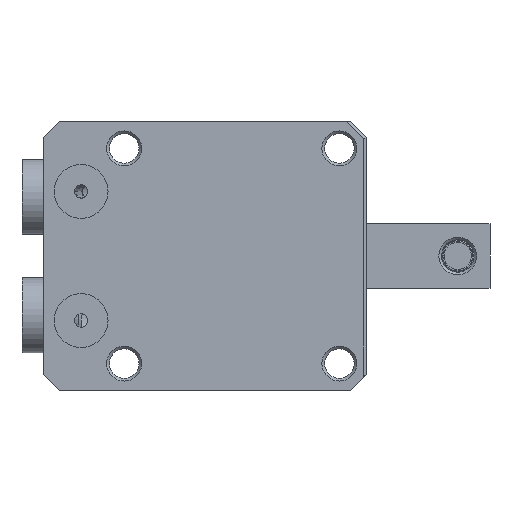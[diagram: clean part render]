
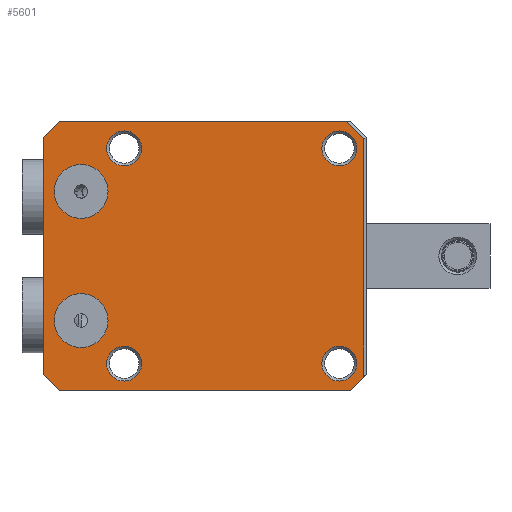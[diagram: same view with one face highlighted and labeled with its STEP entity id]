
A CAD part, front view. The second image highlights one B-rep face of the part: STEP entity #5601.
In plain terms, the highlighted planar face has unit normal (0, -1, 0).
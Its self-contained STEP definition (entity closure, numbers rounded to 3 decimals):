
#158=PLANE('',#6184);
#270=FACE_BOUND('',#805,.T.);
#271=FACE_BOUND('',#806,.T.);
#272=FACE_BOUND('',#807,.T.);
#273=FACE_BOUND('',#808,.T.);
#274=FACE_BOUND('',#809,.T.);
#275=FACE_BOUND('',#810,.T.);
#466=FACE_OUTER_BOUND('',#804,.T.);
#804=EDGE_LOOP('',(#3968,#3969,#3970,#3971,#3972,#3973,#3974,#3975));
#805=EDGE_LOOP('',(#3976));
#806=EDGE_LOOP('',(#3977));
#807=EDGE_LOOP('',(#3978));
#808=EDGE_LOOP('',(#3979));
#809=EDGE_LOOP('',(#3980));
#810=EDGE_LOOP('',(#3981));
#1212=LINE('',#9119,#1626);
#1232=LINE('',#9159,#1646);
#1233=LINE('',#9163,#1647);
#1234=LINE('',#9165,#1648);
#1235=LINE('',#9167,#1649);
#1236=LINE('',#9169,#1650);
#1237=LINE('',#9170,#1651);
#1238=LINE('',#9171,#1652);
#1626=VECTOR('',#7035,1000.);
#1646=VECTOR('',#7071,1000.);
#1647=VECTOR('',#7074,1000.);
#1648=VECTOR('',#7075,1000.);
#1649=VECTOR('',#7076,1000.);
#1650=VECTOR('',#7077,1000.);
#1651=VECTOR('',#7078,1000.);
#1652=VECTOR('',#7079,1000.);
#2011=CIRCLE('',#6110,5.);
#2013=CIRCLE('',#6113,5.);
#2016=CIRCLE('',#6117,3.25);
#2019=CIRCLE('',#6121,3.25);
#2022=CIRCLE('',#6125,3.25);
#2025=CIRCLE('',#6129,3.25);
#2402=VERTEX_POINT('',#8817);
#2404=VERTEX_POINT('',#8823);
#2407=VERTEX_POINT('',#8831);
#2410=VERTEX_POINT('',#8839);
#2413=VERTEX_POINT('',#8847);
#2416=VERTEX_POINT('',#8855);
#2459=VERTEX_POINT('',#9116);
#2460=VERTEX_POINT('',#9118);
#2472=VERTEX_POINT('',#9157);
#2473=VERTEX_POINT('',#9161);
#2474=VERTEX_POINT('',#9162);
#2475=VERTEX_POINT('',#9164);
#2476=VERTEX_POINT('',#9166);
#2477=VERTEX_POINT('',#9168);
#2952=EDGE_CURVE('',#2402,#2402,#2011,.T.);
#2955=EDGE_CURVE('',#2404,#2404,#2013,.T.);
#2959=EDGE_CURVE('',#2407,#2407,#2016,.T.);
#2963=EDGE_CURVE('',#2410,#2410,#2019,.T.);
#2967=EDGE_CURVE('',#2413,#2413,#2022,.T.);
#2971=EDGE_CURVE('',#2416,#2416,#2025,.T.);
#3033=EDGE_CURVE('',#2460,#2459,#1212,.T.);
#3054=EDGE_CURVE('',#2459,#2472,#1232,.T.);
#3055=EDGE_CURVE('',#2473,#2474,#1233,.T.);
#3056=EDGE_CURVE('',#2475,#2473,#1234,.T.);
#3057=EDGE_CURVE('',#2476,#2475,#1235,.T.);
#3058=EDGE_CURVE('',#2477,#2476,#1236,.T.);
#3059=EDGE_CURVE('',#2460,#2477,#1237,.T.);
#3060=EDGE_CURVE('',#2474,#2472,#1238,.T.);
#3968=ORIENTED_EDGE('',*,*,#3055,.F.);
#3969=ORIENTED_EDGE('',*,*,#3056,.F.);
#3970=ORIENTED_EDGE('',*,*,#3057,.F.);
#3971=ORIENTED_EDGE('',*,*,#3058,.F.);
#3972=ORIENTED_EDGE('',*,*,#3059,.F.);
#3973=ORIENTED_EDGE('',*,*,#3033,.T.);
#3974=ORIENTED_EDGE('',*,*,#3054,.T.);
#3975=ORIENTED_EDGE('',*,*,#3060,.F.);
#3976=ORIENTED_EDGE('',*,*,#2952,.F.);
#3977=ORIENTED_EDGE('',*,*,#2955,.F.);
#3978=ORIENTED_EDGE('',*,*,#2959,.F.);
#3979=ORIENTED_EDGE('',*,*,#2963,.F.);
#3980=ORIENTED_EDGE('',*,*,#2967,.F.);
#3981=ORIENTED_EDGE('',*,*,#2971,.F.);
#5601=ADVANCED_FACE('',(#466,#270,#271,#272,#273,#274,#275),#158,.F.);
#6110=AXIS2_PLACEMENT_3D('',#8819,#6872,#6873);
#6113=AXIS2_PLACEMENT_3D('',#8825,#6879,#6880);
#6117=AXIS2_PLACEMENT_3D('',#8833,#6888,#6889);
#6121=AXIS2_PLACEMENT_3D('',#8841,#6897,#6898);
#6125=AXIS2_PLACEMENT_3D('',#8849,#6906,#6907);
#6129=AXIS2_PLACEMENT_3D('',#8857,#6915,#6916);
#6184=AXIS2_PLACEMENT_3D('',#9160,#7072,#7073);
#6872=DIRECTION('center_axis',(0.,-1.,0.));
#6873=DIRECTION('ref_axis',(0.,0.,-1.));
#6879=DIRECTION('center_axis',(0.,-1.,0.));
#6880=DIRECTION('ref_axis',(0.,0.,-1.));
#6888=DIRECTION('center_axis',(0.,-1.,0.));
#6889=DIRECTION('ref_axis',(1.,0.,0.));
#6897=DIRECTION('center_axis',(0.,-1.,0.));
#6898=DIRECTION('ref_axis',(0.,0.,-1.));
#6906=DIRECTION('center_axis',(0.,-1.,0.));
#6907=DIRECTION('ref_axis',(0.,0.,
-1.));
#6915=DIRECTION('center_axis',(0.,-1.,0.));
#6916=DIRECTION('ref_axis',(0.,0.,-1.));
#7035=DIRECTION('',(1.,0.,0.));
#7071=DIRECTION('',(0.707,0.,0.707));
#7072=DIRECTION('center_axis',(0.,1.,0.));
#7073=DIRECTION('ref_axis',(0.,0.,1.));
#7074=DIRECTION('',(0.707,0.,-0.707));
#7075=DIRECTION('',(1.,0.,0.));
#7076=DIRECTION('',(0.707,0.,0.707));
#7077=DIRECTION('',(0.,0.,1.));
#7078=DIRECTION('',(-0.707,0.,0.707));
#7079=DIRECTION('',(0.,0.,-1.));
#8817=CARTESIAN_POINT('',(403.833,54.859,-7.));
#8819=CARTESIAN_POINT('Origin',(403.833,54.859,-12.));
#8823=CARTESIAN_POINT('',(403.833,54.859,17.));
#8825=CARTESIAN_POINT('Origin',(403.833,54.859,12.));
#8831=CARTESIAN_POINT('',(408.583,54.859,-20.));
#8833=CARTESIAN_POINT('Origin',(411.833,54.859,-20.));
#8839=CARTESIAN_POINT('',(451.833,54.859,-16.75));
#8841=CARTESIAN_POINT('Origin',(451.833,54.859,-20.));
#8847=CARTESIAN_POINT('',(451.833,54.859,23.25));
#8849=CARTESIAN_POINT('Origin',(451.833,54.859,20.));
#8855=CARTESIAN_POINT('',(411.833,54.859,23.25));
#8857=CARTESIAN_POINT('Origin',(411.833,54.859,20.));
#9116=CARTESIAN_POINT('',(453.833,54.859,-25.));
#9118=CARTESIAN_POINT('',(399.833,54.859,-25.));
#9119=CARTESIAN_POINT('',(399.833,54.859,-25.));
#9157=CARTESIAN_POINT('',(456.333,54.859,-22.5));
#9159=CARTESIAN_POINT('',(453.833,54.859,-25.));
#9160=CARTESIAN_POINT('Origin',(456.333,54.859,-25.));
#9161=CARTESIAN_POINT('',(453.126,54.859,25.));
#9162=CARTESIAN_POINT('',(456.333,54.859,21.793));
#9163=CARTESIAN_POINT('',(453.126,54.859,25.));
#9164=CARTESIAN_POINT('',(399.833,54.859,25.));
#9165=CARTESIAN_POINT('',(456.333,54.859,25.));
#9166=CARTESIAN_POINT('',(396.833,54.859,22.));
#9167=CARTESIAN_POINT('',(396.833,54.859,22.));
#9168=CARTESIAN_POINT('',(396.833,54.859,-22.));
#9169=CARTESIAN_POINT('',(396.833,54.859,-25.));
#9170=CARTESIAN_POINT('',(399.833,54.859,-25.));
#9171=CARTESIAN_POINT('',(456.333,54.859,-25.));
